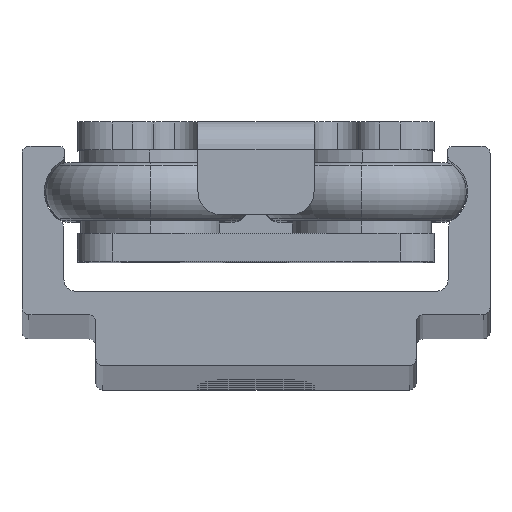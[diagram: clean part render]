
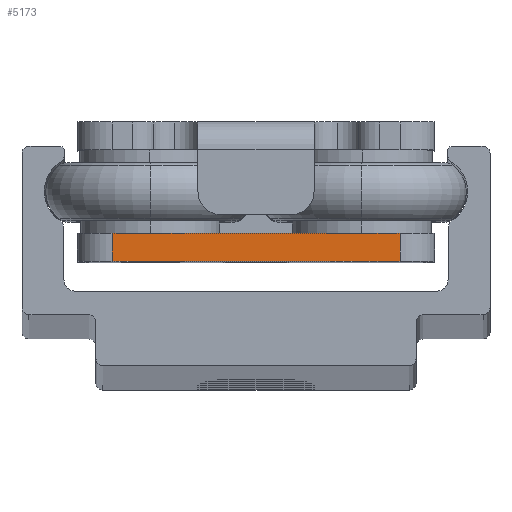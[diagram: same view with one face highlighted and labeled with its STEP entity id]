
A CAD part, top view. The second image highlights one B-rep face of the part: STEP entity #5173.
In plain terms, the highlighted planar face has unit normal (0, 0, 1).
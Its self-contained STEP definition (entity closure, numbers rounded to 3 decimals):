
#18 = CARTESIAN_POINT ( 'NONE',  ( -6.2, -6., 20. ) ) ;
#424 = ORIENTED_EDGE ( 'NONE', *, *, #955, .F. ) ;
#731 = DIRECTION ( 'NONE',  ( -1., 0., 0. ) ) ;
#762 = DIRECTION ( 'NONE',  ( -1., 0., 0. ) ) ;
#786 = CARTESIAN_POINT ( 'NONE',  ( 6.2, -6., 20. ) ) ;
#797 = LINE ( 'NONE', #4013, #7634 ) ;
#955 = EDGE_CURVE ( 'NONE', #14241, #8208, #10167, .T. ) ;
#988 = CARTESIAN_POINT ( 'NONE',  ( 6.2, -6., 20. ) ) ;
#1410 = CARTESIAN_POINT ( 'NONE',  ( 6.2, -4.8, 20. ) ) ;
#1688 = VERTEX_POINT ( 'NONE', #3164 ) ;
#2493 = DIRECTION ( 'NONE',  ( -1., 0., 0. ) ) ;
#2694 = ORIENTED_EDGE ( 'NONE', *, *, #3173, .T. ) ;
#3164 = CARTESIAN_POINT ( 'NONE',  ( -6.2, -4.8, 20. ) ) ;
#3167 = CARTESIAN_POINT ( 'NONE',  ( -7.7, -6., 20. ) ) ;
#3173 = EDGE_CURVE ( 'NONE', #5481, #1688, #797, .T. ) ;
#3733 = EDGE_CURVE ( 'NONE', #14241, #5481, #11936, .T. ) ;
#3829 = PLANE ( 'NONE',  #6032 ) ;
#3872 = VECTOR ( 'NONE', #8884, 1000. ) ;
#4013 = CARTESIAN_POINT ( 'NONE',  ( -7.7, -4.8, 20. ) ) ;
#4639 = ORIENTED_EDGE ( 'NONE', *, *, #9693, .T. ) ;
#5068 = DIRECTION ( 'NONE',  ( 0., 0., -1. ) ) ;
#5173 = ADVANCED_FACE ( 'NONE', ( #10618 ), #3829, .F. ) ;
#5433 = DIRECTION ( 'NONE',  ( 0., 1., 0. ) ) ;
#5481 = VERTEX_POINT ( 'NONE', #1410 ) ;
#5555 = LINE ( 'NONE', #18, #3872 ) ;
#6032 = AXIS2_PLACEMENT_3D ( 'NONE', #10691, #5068, #762 ) ;
#6282 = CARTESIAN_POINT ( 'NONE',  ( -6.2, -6., 20. ) ) ;
#7374 = ORIENTED_EDGE ( 'NONE', *, *, #3733, .T. ) ;
#7385 = VECTOR ( 'NONE', #5433, 1000. ) ;
#7634 = VECTOR ( 'NONE', #731, 1000. ) ;
#8208 = VERTEX_POINT ( 'NONE', #6282 ) ;
#8884 = DIRECTION ( 'NONE',  ( 0., -1., 0. ) ) ;
#9693 = EDGE_CURVE ( 'NONE', #1688, #8208, #5555, .T. ) ;
#10167 = LINE ( 'NONE', #3167, #12194 ) ;
#10618 = FACE_OUTER_BOUND ( 'NONE', #13327, .T. ) ;
#10691 = CARTESIAN_POINT ( 'NONE',  ( -7.7, -6., 20. ) ) ;
#11936 = LINE ( 'NONE', #988, #7385 ) ;
#12194 = VECTOR ( 'NONE', #2493, 1000. ) ;
#13327 = EDGE_LOOP ( 'NONE', ( #424, #7374, #2694, #4639 ) ) ;
#14241 = VERTEX_POINT ( 'NONE', #786 ) ;
